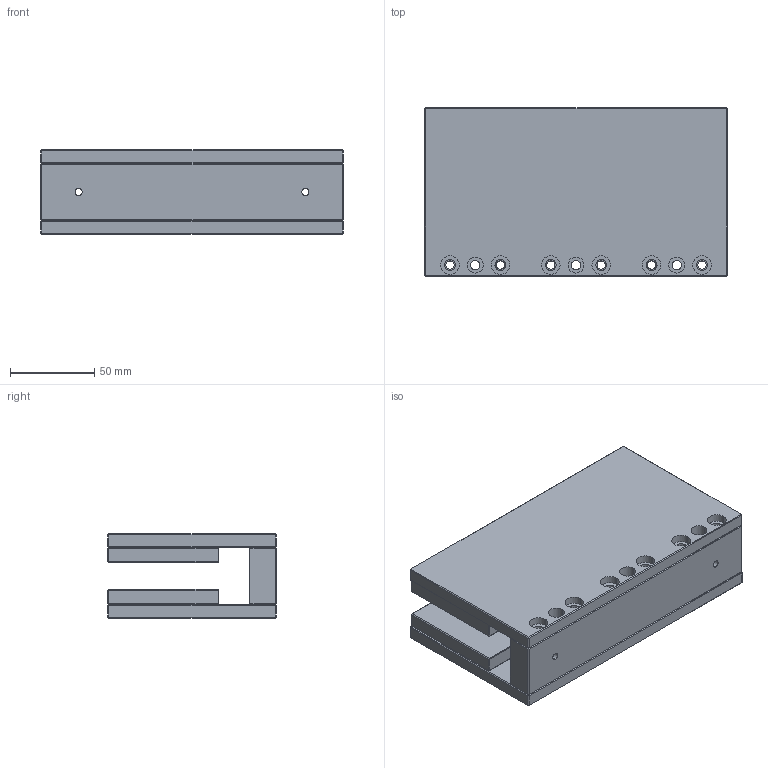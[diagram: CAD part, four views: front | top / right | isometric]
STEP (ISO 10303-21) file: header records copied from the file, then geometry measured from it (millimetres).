
FILE_DESCRIPTION (( 'STEP AP214' ), '1' );
FILE_NAME ('JKA5-180.STEP', '2025-09-05T08:47:42', ( '' ), ( '' ), 'SwSTEP 2.0', 'SolidWorks 2016', '' );
FILE_SCHEMA (( 'AUTOMOTIVE_DESIGN' ));
Length unit declared in the file: millimetre
Products named in the file (1): JKA5-180
Bounding box: 180 x 100 x 50 mm (x, y, z)
Volume: 567623 mm3; surface area: 169788.2 mm2
Topology: 15 solids, 15 shells, 468 faces, 966 edges, 540 vertices
Faces by surface type: plane 378, cylinder 90
Entity records: 17262 total; most frequent: CARTESIAN_POINT 2071, DIRECTION 2036, ORIENTED_EDGE 1932, EDGE_CURVE 966, VECTOR 770, LINE 770, AXIS2_PLACEMENT_3D 633, VERTEX_POINT 540
